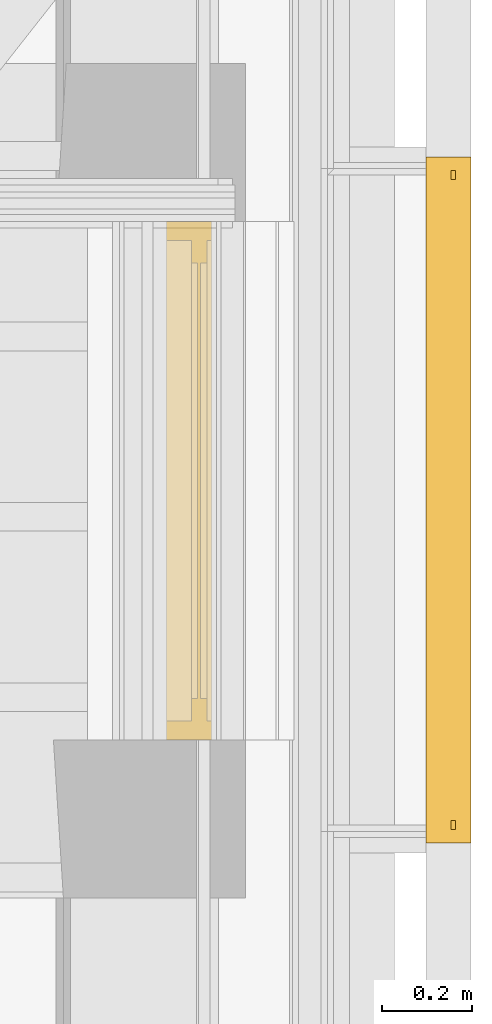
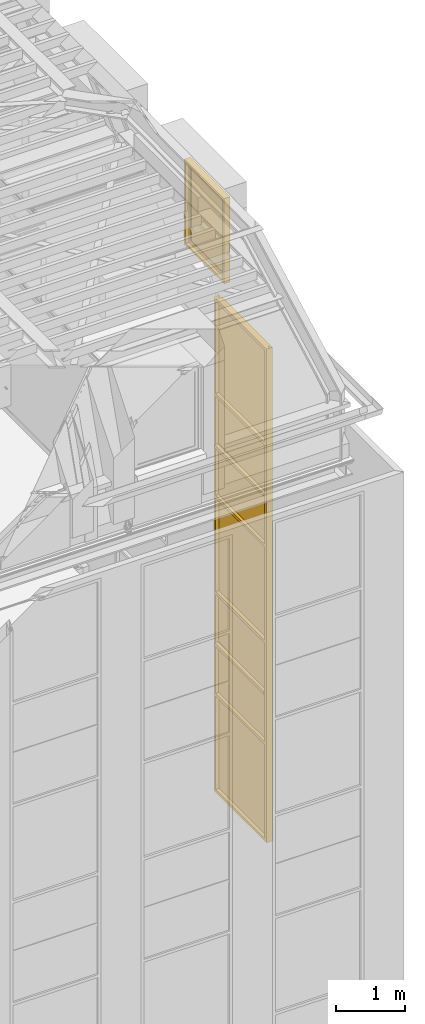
# One storey, part 145 of 183: 1 curtain wall, 1 window.
"""IFC2X3 building model written with IfcOpenShell, lengths in metres."""

from ifc_helpers import new_model, entity, si_unit, converted_unit, derived_unit, money_unit, direction, frame, origin_with_axes, place, context, subcontext, project, spatial, faceted_brep, material, type_object, element, save


model = new_model("IFC2X3")

# Units and contexts
model_context = context("Model", 3, precision=1e-05, world=origin_with_axes(), true_north=direction((0.0, 1.0)))
body_context = subcontext(model_context, "Body", "Model", "MODEL_VIEW", scale=1.0)
ifc_project = project(units=[si_unit("LENGTHUNIT", "METRE"), si_unit("AREAUNIT", "SQUARE_METRE"), si_unit("VOLUMEUNIT", "CUBIC_METRE"), si_unit("ABSORBEDDOSEUNIT", "GRAY"), si_unit("AMOUNTOFSUBSTANCEUNIT", "MOLE"), si_unit("DOSEEQUIVALENTUNIT", "SIEVERT"), si_unit("ELECTRICCAPACITANCEUNIT", "FARAD"), si_unit("ELECTRICCHARGEUNIT", "COULOMB"), si_unit("ELECTRICCONDUCTANCEUNIT", "SIEMENS"), si_unit("ELECTRICCURRENTUNIT", "AMPERE"), si_unit("ELECTRICRESISTANCEUNIT", "OHM"), si_unit("ELECTRICVOLTAGEUNIT", "VOLT"), si_unit("ENERGYUNIT", "JOULE"), si_unit("FORCEUNIT", "NEWTON"), si_unit("FREQUENCYUNIT", "HERTZ"), si_unit("ILLUMINANCEUNIT", "LUX"), si_unit("INDUCTANCEUNIT", "HENRY"), si_unit("LUMINOUSFLUXUNIT", "LUMEN"), si_unit("LUMINOUSINTENSITYUNIT", "CANDELA"), si_unit("MAGNETICFLUXDENSITYUNIT", "TESLA"), si_unit("MAGNETICFLUXUNIT", "WEBER"), si_unit("MASSUNIT", "GRAM"), converted_unit("PLANEANGLEUNIT", "degree", entity("IfcReal", 0.0174532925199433), si_unit("PLANEANGLEUNIT", "RADIAN"), dimensions=[0, 0, 0, 0, 0, 0, 0]), si_unit("POWERUNIT", "WATT"), si_unit("PRESSUREUNIT", "PASCAL"), si_unit("RADIOACTIVITYUNIT", "BECQUEREL"), si_unit("SOLIDANGLEUNIT", "STERADIAN"), si_unit("THERMODYNAMICTEMPERATUREUNIT", "KELVIN"), si_unit("TIMEUNIT", "SECOND"), derived_unit("ACCELERATIONUNIT", [(si_unit("LENGTHUNIT", "METRE"), 1), (si_unit("TIMEUNIT", "SECOND"), -2)]), derived_unit("ANGULARVELOCITYUNIT", [(converted_unit("PLANEANGLEUNIT", "degree", entity("IfcReal", 0.0174532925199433), si_unit("PLANEANGLEUNIT", "RADIAN"), dimensions=[0, 0, 0, 0, 0, 0, 0]), 1), (si_unit("TIMEUNIT", "SECOND"), -1)]), derived_unit("CURVATUREUNIT", [(converted_unit("PLANEANGLEUNIT", "degree", entity("IfcReal", 0.0174532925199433), si_unit("PLANEANGLEUNIT", "RADIAN"), dimensions=[0, 0, 0, 0, 0, 0, 0]), 1), (si_unit("LENGTHUNIT", "METRE"), -1)]), derived_unit("DYNAMICVISCOSITYUNIT", [(si_unit("PRESSUREUNIT", "PASCAL"), 1), (si_unit("TIMEUNIT", "SECOND"), 1)]), derived_unit("HEATFLUXDENSITYUNIT", [(si_unit("POWERUNIT", "WATT"), 1), (si_unit("LENGTHUNIT", "METRE"), -2)]), derived_unit("HEATINGVALUEUNIT", [(si_unit("ENERGYUNIT", "JOULE"), 1), (si_unit("MASSUNIT", "GRAM"), -1)]), derived_unit("INTEGERCOUNTRATEUNIT", [(si_unit("TIMEUNIT", "SECOND"), -1)]), derived_unit("IONCONCENTRATIONUNIT", [(si_unit("MASSUNIT", "GRAM"), 1), (si_unit("VOLUMEUNIT", "CUBIC_METRE"), -1)]), derived_unit("ISOTHERMALMOISTURECAPACITYUNIT", [(si_unit("VOLUMEUNIT", "CUBIC_METRE"), 1), (si_unit("MASSUNIT", "GRAM"), -1)]), derived_unit("KINEMATICVISCOSITYUNIT", [(si_unit("AREAUNIT", "SQUARE_METRE"), 1), (si_unit("TIMEUNIT", "SECOND"), -1)]), derived_unit("LINEARFORCEUNIT", [(si_unit("FORCEUNIT", "NEWTON"), 1), (si_unit("LENGTHUNIT", "METRE"), -1)]), derived_unit("LINEARMOMENTUNIT", [(si_unit("FORCEUNIT", "NEWTON"), 1), (si_unit("LENGTHUNIT", "METRE"), -1)]), derived_unit("LINEARSTIFFNESSUNIT", [(si_unit("FORCEUNIT", "NEWTON"), 1), (si_unit("LENGTHUNIT", "METRE"), -1)]), derived_unit("LINEARVELOCITYUNIT", [(si_unit("LENGTHUNIT", "METRE"), 1), (si_unit("TIMEUNIT", "SECOND"), -1)]), derived_unit("LUMINOUSINTENSITYDISTRIBUTIONUNIT", [(si_unit("LUMINOUSINTENSITYUNIT", "CANDELA"), 1), (si_unit("LUMINOUSFLUXUNIT", "LUMEN"), -1)]), derived_unit("MASSDENSITYUNIT", [(si_unit("MASSUNIT", "GRAM"), 1), (si_unit("VOLUMEUNIT", "CUBIC_METRE"), -1)]), derived_unit("MASSFLOWRATEUNIT", [(si_unit("MASSUNIT", "GRAM"), 1), (si_unit("TIMEUNIT", "SECOND"), -1)]), derived_unit("MASSPERLENGTHUNIT", [(si_unit("MASSUNIT", "GRAM"), 1), (si_unit("LENGTHUNIT", "METRE"), -1)]), derived_unit("MODULUSOFELASTICITYUNIT", [(si_unit("FORCEUNIT", "NEWTON"), 1), (si_unit("AREAUNIT", "SQUARE_METRE"), -1)]), derived_unit("MODULUSOFLINEARSUBGRADEREACTIONUNIT", [(si_unit("FORCEUNIT", "NEWTON"), 1), (si_unit("LENGTHUNIT", "METRE"), -2)]), derived_unit("MODULUSOFROTATIONALSUBGRADEREACTIONUNIT", [(si_unit("FORCEUNIT", "NEWTON"), 1), (si_unit("LENGTHUNIT", "METRE"), 1)]), derived_unit("MODULUSOFSUBGRADEREACTIONUNIT", [(si_unit("FORCEUNIT", "NEWTON"), 1), (si_unit("VOLUMEUNIT", "CUBIC_METRE"), -1)]), derived_unit("MOISTUREDIFFUSIVITYUNIT", [(si_unit("VOLUMEUNIT", "CUBIC_METRE"), 1), (si_unit("TIMEUNIT", "SECOND"), -1)]), derived_unit("MOLECULARWEIGHTUNIT", [(si_unit("MASSUNIT", "GRAM"), 1), (si_unit("AMOUNTOFSUBSTANCEUNIT", "MOLE"), -1)]), derived_unit("PLANARFORCEUNIT", [(si_unit("FORCEUNIT", "NEWTON"), 1), (si_unit("LENGTHUNIT", "METRE"), -2)]), derived_unit("ROTATIONALFREQUENCYUNIT", [(si_unit("TIMEUNIT", "SECOND"), -1)]), derived_unit("ROTATIONALMASSUNIT", [(si_unit("MASSUNIT", "GRAM"), 1), (si_unit("LENGTHUNIT", "METRE"), 2)]), derived_unit("ROTATIONALSTIFFNESSUNIT", [(si_unit("FORCEUNIT", "NEWTON"), 1), (si_unit("LENGTHUNIT", "METRE"), 1), (converted_unit("PLANEANGLEUNIT", "degree", entity("IfcReal", 0.0174532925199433), si_unit("PLANEANGLEUNIT", "RADIAN"), dimensions=[0, 0, 0, 0, 0, 0, 0]), -1)]), derived_unit("SECTIONAREAINTEGRALUNIT", [(si_unit("LENGTHUNIT", "METRE"), 5)]), derived_unit("SECTIONMODULUSUNIT", [(si_unit("LENGTHUNIT", "METRE"), 3)]), derived_unit("SHEARMODULUSUNIT", [(si_unit("FORCEUNIT", "NEWTON"), 1), (si_unit("AREAUNIT", "SQUARE_METRE"), -1)]), derived_unit("SOUNDPOWERUNIT", [(si_unit("ENERGYUNIT", "JOULE"), 1), (si_unit("TIMEUNIT", "SECOND"), -1)]), derived_unit("SPECIFICHEATCAPACITYUNIT", [(si_unit("FORCEUNIT", "NEWTON"), 1), (si_unit("MASSUNIT", "GRAM"), -1), (si_unit("THERMODYNAMICTEMPERATUREUNIT", "KELVIN"), -1)]), derived_unit("TEMPERATUREGRADIENTUNIT", [(si_unit("THERMODYNAMICTEMPERATUREUNIT", "KELVIN"), 1), (si_unit("LENGTHUNIT", "METRE"), -1)]), derived_unit("THERMALADMITTANCEUNIT", [(si_unit("POWERUNIT", "WATT"), 1), (si_unit("AREAUNIT", "SQUARE_METRE"), -1), (si_unit("THERMODYNAMICTEMPERATUREUNIT", "KELVIN"), -1)]), derived_unit("THERMALCONDUCTANCEUNIT", [(si_unit("POWERUNIT", "WATT"), 1), (si_unit("LENGTHUNIT", "METRE"), -1), (si_unit("THERMODYNAMICTEMPERATUREUNIT", "KELVIN"), -1)]), derived_unit("THERMALEXPANSIONCOEFFICIENTUNIT", [(si_unit("THERMODYNAMICTEMPERATUREUNIT", "KELVIN"), -1)]), derived_unit("THERMALRESISTANCEUNIT", [(si_unit("AREAUNIT", "SQUARE_METRE"), 1), (si_unit("POWERUNIT", "WATT"), -1)]), derived_unit("THERMALTRANSMITTANCEUNIT", [(si_unit("POWERUNIT", "WATT"), 1), (si_unit("AREAUNIT", "SQUARE_METRE"), -1), (si_unit("THERMODYNAMICTEMPERATUREUNIT", "KELVIN"), -1)]), derived_unit("TORQUEUNIT", [(si_unit("FORCEUNIT", "NEWTON"), 1), (si_unit("LENGTHUNIT", "METRE"), 1)]), derived_unit("VAPORPERMEABILITYUNIT", [(si_unit("MASSUNIT", "GRAM"), 1), (si_unit("TIMEUNIT", "SECOND"), -1)]), derived_unit("VOLUMETRICFLOWRATEUNIT", [(si_unit("VOLUMEUNIT", "CUBIC_METRE"), 1), (si_unit("TIMEUNIT", "SECOND"), -1)]), derived_unit("WARPINGCONSTANTUNIT", [(si_unit("LENGTHUNIT", "METRE"), 6)]), derived_unit("WARPINGMOMENTUNIT", [(si_unit("FORCEUNIT", "NEWTON"), 1), (si_unit("LENGTHUNIT", "METRE"), 2)]), money_unit("GBP")], contexts=[model_context])

# Site, building, storey
site_placement = place(None, origin_with_axes())
site = spatial("IfcSite", under=ifc_project, at=site_placement, Name="Site", CompositionType="ELEMENT")
building_placement = place(site_placement, origin_with_axes())
building = spatial("IfcBuilding", under=site, at=building_placement, Name="Building01", CompositionType="ELEMENT")
storey_placement = place(building_placement, frame((0.0, 0.0, 5.15), z_axis=(0.0, 0.0, 1.0), x_axis=(1.0, 0.0, 0.0)))
storey = spatial("IfcBuildingStorey", under=building, at=storey_placement, Name="1F", CompositionType="ELEMENT", Elevation=5.15)

# Curtain wall
ifc_material_1 = material(Name="A-CurtainWall_Frame")
curtain_wall_type = type_object("IfcCurtainWallType", Name="Pattern - Maximum Spacing", PredefinedType="NOTDEFINED")
curtain_wall_placement = place(storey_placement, frame((0.0, 0.0, -5.15), z_axis=(0.0, 0.0, 1.0), x_axis=(1.0, 0.0, 0.0)))
element("IfcCurtainWall", 1, at=curtain_wall_placement, inside=storey, type_object=curtain_wall_type, material=ifc_material_1, Name="28", ObjectType="Pattern - Maximum Spacing", context=body_context, shape_type="Brep", body=[
    faceted_brep([(26.935, 3.82718, 6.045508), (26.945, 3.82718, 6.045508), (26.945, 3.82718, 7.729632), (26.935, 3.82718, 7.729632), (26.935, 5.28718, 6.045508), (26.945, 5.28718, 6.045508), (26.935, 5.28718, 7.729632), (26.945, 5.28718, 7.729632)], [[[0, 1, 2, 3]], [[4, 5, 1, 0]], [[6, 7, 5, 4]], [[3, 2, 7, 6]], [[1, 5, 7, 2]], [[3, 6, 4, 0]]]),
    faceted_brep([(26.935, 3.82718, 6.015508), (26.945, 3.82718, 6.015508), (26.945, 3.84718, 6.015508), (26.98, 3.84718, 6.015508), (26.98, 3.79718, 6.015508), (26.88, 3.79718, 6.015508), (26.88, 3.84718, 6.015508), (26.935, 3.84718, 6.015508), (26.935, 3.84718, 7.734632), (26.935, 3.82718, 7.734632), (26.945, 3.82718, 7.734632), (26.945, 3.84718, 7.734632), (26.98, 3.84718, 7.734632), (26.98, 3.79718, 7.734632), (26.88, 3.79718, 7.734632), (26.88, 3.84718, 7.734632)], [[[0, 1, 2, 3, 4, 5, 6, 7]], [[7, 8, 9, 0]], [[0, 9, 10, 1]], [[1, 10, 11, 2]], [[2, 11, 12, 3]], [[3, 12, 13, 4]], [[4, 13, 14, 5]], [[5, 14, 15, 6]], [[6, 15, 8, 7]]]),
    faceted_brep([(26.935, 5.26718, 6.045508), (26.945, 5.26718, 6.045508), (26.945, 5.26718, 6.065508), (26.98, 5.26718, 6.065508), (26.98, 5.26718, 6.015508), (26.88, 5.26718, 6.015508), (26.88, 5.26718, 6.065508), (26.935, 5.26718, 6.065508), (26.935, 3.84718, 6.065508), (26.935, 3.84718, 6.045508), (26.945, 3.84718, 6.045508), (26.945, 3.84718, 6.065508), (26.98, 3.84718, 6.065508), (26.98, 3.84718, 6.015508), (26.88, 3.84718, 6.015508), (26.88, 3.84718, 6.065508)], [[[0, 1, 2, 3, 4, 5, 6, 7]], [[7, 8, 9, 0]], [[0, 9, 10, 1]], [[1, 10, 11, 2]], [[2, 11, 12, 3]], [[3, 12, 13, 4]], [[4, 13, 14, 5]], [[5, 14, 15, 6]], [[6, 15, 8, 7]], [[8, 15, 14, 13, 12, 11, 10, 9]]]),
    faceted_brep([(26.88, 5.26718, 6.015508), (26.88, 5.26718, 7.734632), (26.88, 5.31718, 7.734632), (26.88, 5.31718, 6.015508), (26.935, 5.26718, 6.015508), (26.935, 5.26718, 7.734632), (26.935, 5.28718, 6.015508), (26.935, 5.28718, 7.734632), (26.945, 5.28718, 6.015508), (26.945, 5.28718, 7.734632), (26.945, 5.26718, 6.015508), (26.945, 5.26718, 7.734632), (26.98, 5.26718, 6.015508), (26.98, 5.26718, 7.734632), (26.98, 5.31718, 6.015508), (26.98, 5.31718, 7.734632)], [[[0, 1, 2, 3]], [[4, 5, 1, 0]], [[6, 7, 5, 4]], [[8, 9, 7, 6]], [[10, 11, 9, 8]], [[12, 13, 11, 10]], [[14, 15, 13, 12]], [[3, 2, 15, 14]], [[14, 12, 10, 8, 6, 4, 0, 3]]]),
    faceted_brep([(26.935, 3.84718, 7.729632), (26.945, 3.84718, 7.729632), (26.945, 3.84718, 7.709632), (26.98, 3.84718, 7.709632), (26.98, 3.84718, 7.759632), (26.945, 3.84718, 7.759632), (26.945, 3.84718, 7.739632), (26.935, 3.84718, 7.739632), (26.935, 3.84718, 7.759632), (26.88, 3.84718, 7.759632), (26.88, 3.84718, 7.709632), (26.935, 3.84718, 7.709632), (26.935, 5.26718, 7.709632), (26.935, 5.26718, 7.729632), (26.945, 5.26718, 7.729632), (26.945, 5.26718, 7.709632), (26.98, 5.26718, 7.709632), (26.98, 5.26718, 7.759632), (26.945, 5.26718, 7.759632), (26.935, 5.26718, 7.739632), (26.935, 5.26718, 7.759632), (26.945, 5.26718, 7.739632), (26.88, 5.26718, 7.709632), (26.88, 5.26718, 7.759632)], [[[0, 1, 2, 3, 4, 5, 6, 7, 8, 9, 10, 11]], [[11, 12, 13, 0]], [[0, 13, 14, 1]], [[1, 14, 15, 2]], [[2, 15, 16, 3]], [[3, 16, 17, 4]], [[4, 17, 18, 5]], [[7, 19, 20, 8]], [[6, 21, 19, 7]], [[5, 18, 21, 6]], [[10, 22, 12, 11]], [[9, 23, 22, 10]], [[8, 20, 23, 9]], [[20, 19, 21, 18, 17, 16, 15, 14, 13, 12, 22, 23]]]),
    faceted_brep([(26.93, 3.82718, 7.739632), (26.95, 3.82718, 7.739632), (26.95, 3.82718, 8.626522), (26.93, 3.82718, 8.626522), (26.93, 5.28718, 7.739632), (26.95, 5.28718, 7.739632), (26.93, 5.28718, 8.626522), (26.95, 5.28718, 8.626522)], [[[0, 1, 2, 3]], [[4, 5, 1, 0]], [[6, 7, 5, 4]], [[3, 2, 7, 6]], [[1, 5, 7, 2]], [[3, 6, 4, 0]]]),
    faceted_brep([(26.88, 3.84718, 8.631522), (26.88, 3.84718, 7.734632), (26.88, 3.79718, 7.734632), (26.88, 3.79718, 8.631522), (26.935, 3.84718, 8.631522), (26.935, 3.84718, 7.734632), (26.935, 3.82718, 8.631522), (26.935, 3.82718, 7.734632), (26.945, 3.82718, 8.631522), (26.945, 3.82718, 7.734632), (26.945, 3.84718, 8.631522), (26.945, 3.84718, 7.734632), (26.98, 3.84718, 8.631522), (26.98, 3.84718, 7.734632), (26.98, 3.79718, 8.631522), (26.98, 3.79718, 7.734632)], [[[0, 1, 2, 3]], [[4, 5, 1, 0]], [[6, 7, 5, 4]], [[8, 9, 7, 6]], [[10, 11, 9, 8]], [[12, 13, 11, 10]], [[14, 15, 13, 12]], [[3, 2, 15, 14]]]),
    faceted_brep([(26.88, 5.26718, 7.734632), (26.88, 5.26718, 8.631522), (26.88, 5.31718, 8.631522), (26.88, 5.31718, 7.734632), (26.935, 5.26718, 7.734632), (26.935, 5.26718, 8.631522), (26.935, 5.28718, 7.734632), (26.935, 5.28718, 8.631522), (26.945, 5.28718, 7.734632), (26.945, 5.28718, 8.631522), (26.945, 5.26718, 7.734632), (26.945, 5.26718, 8.631522), (26.98, 5.26718, 7.734632), (26.98, 5.26718, 8.631522), (26.98, 5.31718, 7.734632), (26.98, 5.31718, 8.631522)], [[[0, 1, 2, 3]], [[4, 5, 1, 0]], [[6, 7, 5, 4]], [[8, 9, 7, 6]], [[10, 11, 9, 8]], [[12, 13, 11, 10]], [[14, 15, 13, 12]], [[3, 2, 15, 14]]]),
    faceted_brep([(26.9175, 3.84718, 8.626522), (26.9275, 3.84718, 8.626522), (26.9275, 3.84718, 8.606522), (26.9625, 3.84718, 8.606522), (26.9625, 3.84718, 8.656522), (26.9275, 3.84718, 8.656522), (26.9275, 3.84718, 8.636522), (26.9175, 3.84718, 8.636522), (26.9175, 3.84718, 8.656522), (26.8625, 3.84718, 8.656522), (26.8625, 3.84718, 8.606522), (26.9175, 3.84718, 8.606522), (26.9175, 5.26718, 8.606522), (26.9175, 5.26718, 8.626522), (26.9275, 5.26718, 8.626522), (26.9275, 5.26718, 8.606522), (26.9625, 5.26718, 8.606522), (26.9625, 5.26718, 8.656522), (26.9275, 5.26718, 8.656522), (26.9175, 5.26718, 8.636522), (26.9175, 5.26718, 8.656522), (26.9275, 5.26718, 8.636522), (26.8625, 5.26718, 8.606522), (26.8625, 5.26718, 8.656522)], [[[0, 1, 2, 3, 4, 5, 6, 7, 8, 9, 10, 11]], [[11, 12, 13, 0]], [[0, 13, 14, 1]], [[1, 14, 15, 2]], [[2, 15, 16, 3]], [[3, 16, 17, 4]], [[4, 17, 18, 5]], [[7, 19, 20, 8]], [[6, 21, 19, 7]], [[5, 18, 21, 6]], [[10, 22, 12, 11]], [[9, 23, 22, 10]], [[8, 20, 23, 9]], [[20, 19, 21, 18, 17, 16, 15, 14, 13, 12, 22, 23]]]),
    faceted_brep([(26.93, 3.82718, 8.636522), (26.95, 3.82718, 8.636522), (26.95, 3.82718, 9.523411), (26.93, 3.82718, 9.523411), (26.93, 5.28718, 8.636522), (26.95, 5.28718, 8.636522), (26.93, 5.28718, 9.523411), (26.95, 5.28718, 9.523411)], [[[0, 1, 2, 3]], [[4, 5, 1, 0]], [[6, 7, 5, 4]], [[3, 2, 7, 6]], [[1, 5, 7, 2]], [[3, 6, 4, 0]]]),
    faceted_brep([(26.88, 3.84718, 9.528411), (26.88, 3.84718, 8.631522), (26.88, 3.79718, 8.631522), (26.88, 3.79718, 9.528411), (26.935, 3.84718, 9.528411), (26.935, 3.84718, 8.631522), (26.935, 3.82718, 9.528411), (26.935, 3.82718, 8.631522), (26.945, 3.82718, 9.528411), (26.945, 3.82718, 8.631522), (26.945, 3.84718, 9.528411), (26.945, 3.84718, 8.631522), (26.98, 3.84718, 9.528411), (26.98, 3.84718, 8.631522), (26.98, 3.79718, 9.528411), (26.98, 3.79718, 8.631522)], [[[0, 1, 2, 3]], [[4, 5, 1, 0]], [[6, 7, 5, 4]], [[8, 9, 7, 6]], [[10, 11, 9, 8]], [[12, 13, 11, 10]], [[14, 15, 13, 12]], [[3, 2, 15, 14]]]),
    faceted_brep([(26.88, 5.26718, 8.631522), (26.88, 5.26718, 9.528411), (26.88, 5.31718, 9.528411), (26.88, 5.31718, 8.631522), (26.935, 5.26718, 8.631522), (26.935, 5.26718, 9.528411), (26.935, 5.28718, 8.631522), (26.935, 5.28718, 9.528411), (26.945, 5.28718, 8.631522), (26.945, 5.28718, 9.528411), (26.945, 5.26718, 8.631522), (26.945, 5.26718, 9.528411), (26.98, 5.26718, 8.631522), (26.98, 5.26718, 9.528411), (26.98, 5.31718, 8.631522), (26.98, 5.31718, 9.528411)], [[[0, 1, 2, 3]], [[4, 5, 1, 0]], [[6, 7, 5, 4]], [[8, 9, 7, 6]], [[10, 11, 9, 8]], [[12, 13, 11, 10]], [[14, 15, 13, 12]], [[3, 2, 15, 14]]]),
    faceted_brep([(26.935, 3.84718, 9.523411), (26.945, 3.84718, 9.523411), (26.945, 3.84718, 9.503411), (26.98, 3.84718, 9.503411), (26.98, 3.84718, 9.553411), (26.945, 3.84718, 9.553411), (26.945, 3.84718, 9.533411), (26.935, 3.84718, 9.533411), (26.935, 3.84718, 9.553411), (26.88, 3.84718, 9.553411), (26.88, 3.84718, 9.503411), (26.935, 3.84718, 9.503411), (26.935, 5.26718, 9.503411), (26.935, 5.26718, 9.523411), (26.945, 5.26718, 9.523411), (26.945, 5.26718, 9.503411), (26.98, 5.26718, 9.503411), (26.98, 5.26718, 9.553411), (26.945, 5.26718, 9.553411), (26.935, 5.26718, 9.533411), (26.935, 5.26718, 9.553411), (26.945, 5.26718, 9.533411), (26.88, 5.26718, 9.503411), (26.88, 5.26718, 9.553411)], [[[0, 1, 2, 3, 4, 5, 6, 7, 8, 9, 10, 11]], [[11, 12, 13, 0]], [[0, 13, 14, 1]], [[1, 14, 15, 2]], [[2, 15, 16, 3]], [[3, 16, 17, 4]], [[4, 17, 18, 5]], [[7, 19, 20, 8]], [[6, 21, 19, 7]], [[5, 18, 21, 6]], [[10, 22, 12, 11]], [[9, 23, 22, 10]], [[8, 20, 23, 9]], [[20, 19, 21, 18, 17, 16, 15, 14, 13, 12, 22, 23]]]),
    faceted_brep([(26.935, 3.82718, 9.533411), (26.945, 3.82718, 9.533411), (26.945, 3.82718, 11.217536), (26.935, 3.82718, 11.217536), (26.935, 5.28718, 9.533411), (26.945, 5.28718, 9.533411), (26.935, 5.28718, 11.217536), (26.945, 5.28718, 11.217536)], [[[0, 1, 2, 3]], [[4, 5, 1, 0]], [[6, 7, 5, 4]], [[3, 2, 7, 6]], [[1, 5, 7, 2]], [[3, 6, 4, 0]]]),
    faceted_brep([(26.88, 3.84718, 11.222536), (26.88, 3.84718, 9.528411), (26.88, 3.79718, 9.528411), (26.88, 3.79718, 11.222536), (26.935, 3.84718, 11.222536), (26.935, 3.84718, 9.528411), (26.935, 3.82718, 11.222536), (26.935, 3.82718, 9.528411), (26.945, 3.82718, 11.222536), (26.945, 3.82718, 9.528411), (26.945, 3.84718, 11.222536), (26.945, 3.84718, 9.528411), (26.98, 3.84718, 11.222536), (26.98, 3.84718, 9.528411), (26.98, 3.79718, 11.222536), (26.98, 3.79718, 9.528411)], [[[0, 1, 2, 3]], [[4, 5, 1, 0]], [[6, 7, 5, 4]], [[8, 9, 7, 6]], [[10, 11, 9, 8]], [[12, 13, 11, 10]], [[14, 15, 13, 12]], [[3, 2, 15, 14]]]),
    faceted_brep([(26.88, 5.26718, 9.528411), (26.88, 5.26718, 11.222536), (26.88, 5.31718, 11.222536), (26.88, 5.31718, 9.528411), (26.935, 5.26718, 9.528411), (26.935, 5.26718, 11.222536), (26.935, 5.28718, 9.528411), (26.935, 5.28718, 11.222536), (26.945, 5.28718, 9.528411), (26.945, 5.28718, 11.222536), (26.945, 5.26718, 9.528411), (26.945, 5.26718, 11.222536), (26.98, 5.26718, 9.528411), (26.98, 5.26718, 11.222536), (26.98, 5.31718, 9.528411), (26.98, 5.31718, 11.222536)], [[[0, 1, 2, 3]], [[4, 5, 1, 0]], [[6, 7, 5, 4]], [[8, 9, 7, 6]], [[10, 11, 9, 8]], [[12, 13, 11, 10]], [[14, 15, 13, 12]], [[3, 2, 15, 14]]]),
    faceted_brep([(26.935, 3.84718, 11.217536), (26.945, 3.84718, 11.217536), (26.945, 3.84718, 11.197536), (26.98, 3.84718, 11.197536), (26.98, 3.84718, 11.247536), (26.945, 3.84718, 11.247536), (26.945, 3.84718, 11.227536), (26.935, 3.84718, 11.227536), (26.935, 3.84718, 11.247536), (26.88, 3.84718, 11.247536), (26.88, 3.84718, 11.197536), (26.935, 3.84718, 11.197536), (26.935, 5.26718, 11.197536), (26.935, 5.26718, 11.217536), (26.945, 5.26718, 11.217536), (26.945, 5.26718, 11.197536), (26.98, 5.26718, 11.197536), (26.98, 5.26718, 11.247536), (26.945, 5.26718, 11.247536), (26.935, 5.26718, 11.227536), (26.935, 5.26718, 11.247536), (26.945, 5.26718, 11.227536), (26.88, 5.26718, 11.197536), (26.88, 5.26718, 11.247536)], [[[0, 1, 2, 3, 4, 5, 6, 7, 8, 9, 10, 11]], [[11, 12, 13, 0]], [[0, 13, 14, 1]], [[1, 14, 15, 2]], [[2, 15, 16, 3]], [[3, 16, 17, 4]], [[4, 17, 18, 5]], [[7, 19, 20, 8]], [[6, 21, 19, 7]], [[5, 18, 21, 6]], [[10, 22, 12, 11]], [[9, 23, 22, 10]], [[8, 20, 23, 9]], [[20, 19, 21, 18, 17, 16, 15, 14, 13, 12, 22, 23]]]),
    faceted_brep([(26.93, 3.82718, 11.227536), (26.95, 3.82718, 11.227536), (26.95, 3.82718, 12.114425), (26.93, 3.82718, 12.114425), (26.93, 5.28718, 11.227536), (26.95, 5.28718, 11.227536), (26.93, 5.28718, 12.114425), (26.95, 5.28718, 12.114425)], [[[0, 1, 2, 3]], [[4, 5, 1, 0]], [[6, 7, 5, 4]], [[3, 2, 7, 6]], [[1, 5, 7, 2]], [[3, 6, 4, 0]]]),
    faceted_brep([(26.88, 3.84718, 12.119425), (26.88, 3.84718, 11.222536), (26.88, 3.79718, 11.222536), (26.88, 3.79718, 12.119425), (26.935, 3.84718, 12.119425), (26.935, 3.84718, 11.222536), (26.935, 3.82718, 12.119425), (26.935, 3.82718, 11.222536), (26.945, 3.82718, 12.119425), (26.945, 3.82718, 11.222536), (26.945, 3.84718, 12.119425), (26.945, 3.84718, 11.222536), (26.98, 3.84718, 12.119425), (26.98, 3.84718, 11.222536), (26.98, 3.79718, 12.119425), (26.98, 3.79718, 11.222536)], [[[0, 1, 2, 3]], [[4, 5, 1, 0]], [[6, 7, 5, 4]], [[8, 9, 7, 6]], [[10, 11, 9, 8]], [[12, 13, 11, 10]], [[14, 15, 13, 12]], [[3, 2, 15, 14]]]),
    faceted_brep([(26.88, 5.26718, 11.222536), (26.88, 5.26718, 12.119425), (26.88, 5.31718, 12.119425), (26.88, 5.31718, 11.222536), (26.935, 5.26718, 11.222536), (26.935, 5.26718, 12.119425), (26.935, 5.28718, 11.222536), (26.935, 5.28718, 12.119425), (26.945, 5.28718, 11.222536), (26.945, 5.28718, 12.119425), (26.945, 5.26718, 11.222536), (26.945, 5.26718, 12.119425), (26.98, 5.26718, 11.222536), (26.98, 5.26718, 12.119425), (26.98, 5.31718, 11.222536), (26.98, 5.31718, 12.119425)], [[[0, 1, 2, 3]], [[4, 5, 1, 0]], [[6, 7, 5, 4]], [[8, 9, 7, 6]], [[10, 11, 9, 8]], [[12, 13, 11, 10]], [[14, 15, 13, 12]], [[3, 2, 15, 14]]]),
    faceted_brep([(26.9175, 3.84718, 12.114425), (26.9275, 3.84718, 12.114425), (26.9275, 3.84718, 12.094425), (26.9625, 3.84718, 12.094425), (26.9625, 3.84718, 12.144425), (26.9275, 3.84718, 12.144425), (26.9275, 3.84718, 12.124425), (26.9175, 3.84718, 12.124425), (26.9175, 3.84718, 12.144425), (26.8625, 3.84718, 12.144425), (26.8625, 3.84718, 12.094425), (26.9175, 3.84718, 12.094425), (26.9175, 5.26718, 12.094425), (26.9175, 5.26718, 12.114425), (26.9275, 5.26718, 12.114425), (26.9275, 5.26718, 12.094425), (26.9625, 5.26718, 12.094425), (26.9625, 5.26718, 12.144425), (26.9275, 5.26718, 12.144425), (26.9175, 5.26718, 12.124425), (26.9175, 5.26718, 12.144425), (26.9275, 5.26718, 12.124425), (26.8625, 5.26718, 12.094425), (26.8625, 5.26718, 12.144425)], [[[0, 1, 2, 3, 4, 5, 6, 7, 8, 9, 10, 11]], [[11, 12, 13, 0]], [[0, 13, 14, 1]], [[1, 14, 15, 2]], [[2, 15, 16, 3]], [[3, 16, 17, 4]], [[4, 17, 18, 5]], [[7, 19, 20, 8]], [[6, 21, 19, 7]], [[5, 18, 21, 6]], [[10, 22, 12, 11]], [[9, 23, 22, 10]], [[8, 20, 23, 9]], [[20, 19, 21, 18, 17, 16, 15, 14, 13, 12, 22, 23]]]),
    faceted_brep([(26.935, 5.28718, 14.685508), (26.945, 5.28718, 14.685508), (26.945, 5.28718, 13.021314), (26.935, 5.28718, 13.021314), (26.935, 3.82718, 14.685508), (26.945, 3.82718, 14.685508), (26.935, 3.82718, 13.021314), (26.945, 3.82718, 13.021314)], [[[0, 1, 2, 3]], [[4, 5, 1, 0]], [[6, 7, 5, 4]], [[3, 2, 7, 6]], [[1, 5, 7, 2]], [[3, 6, 4, 0]]]),
    faceted_brep([(26.88, 5.26718, 14.715508), (26.935, 5.26718, 14.715508), (26.935, 5.28718, 14.715508), (26.945, 5.28718, 14.715508), (26.945, 5.26718, 14.715508), (26.98, 5.26718, 14.715508), (26.98, 5.31718, 14.715508), (26.88, 5.31718, 14.715508), (26.88, 5.31718, 13.016314), (26.88, 5.26718, 13.016314), (26.935, 5.26718, 13.016314), (26.935, 5.28718, 13.016314), (26.945, 5.28718, 13.016314), (26.945, 5.26718, 13.016314), (26.98, 5.26718, 13.016314), (26.98, 5.31718, 13.016314)], [[[0, 1, 2, 3, 4, 5, 6, 7]], [[7, 8, 9, 0]], [[0, 9, 10, 1]], [[1, 10, 11, 2]], [[2, 11, 12, 3]], [[3, 12, 13, 4]], [[4, 13, 14, 5]], [[5, 14, 15, 6]], [[6, 15, 8, 7]]]),
    faceted_brep([(26.88, 3.84718, 14.665508), (26.935, 3.84718, 14.665508), (26.935, 3.84718, 14.685508), (26.945, 3.84718, 14.685508), (26.945, 3.84718, 14.665508), (26.98, 3.84718, 14.665508), (26.98, 3.84718, 14.715508), (26.88, 3.84718, 14.715508), (26.88, 5.26718, 14.715508), (26.88, 5.26718, 14.665508), (26.935, 5.26718, 14.665508), (26.935, 5.26718, 14.685508), (26.945, 5.26718, 14.685508), (26.945, 5.26718, 14.665508), (26.98, 5.26718, 14.665508), (26.98, 5.26718, 14.715508)], [[[0, 1, 2, 3, 4, 5, 6, 7]], [[7, 8, 9, 0]], [[0, 9, 10, 1]], [[1, 10, 11, 2]], [[2, 11, 12, 3]], [[3, 12, 13, 4]], [[4, 13, 14, 5]], [[5, 14, 15, 6]], [[6, 15, 8, 7]], [[8, 15, 14, 13, 12, 11, 10, 9]]]),
    faceted_brep([(26.935, 3.82718, 14.715508), (26.935, 3.82718, 13.016314), (26.935, 3.84718, 13.016314), (26.935, 3.84718, 14.715508), (26.945, 3.82718, 14.715508), (26.945, 3.82718, 13.016314), (26.945, 3.84718, 14.715508), (26.945, 3.84718, 13.016314), (26.98, 3.84718, 14.715508), (26.98, 3.84718, 13.016314), (26.98, 3.79718, 14.715508), (26.98, 3.79718, 13.016314), (26.88, 3.79718, 14.715508), (26.88, 3.79718, 13.016314), (26.88, 3.84718, 14.715508), (26.88, 3.84718, 13.016314)], [[[0, 1, 2, 3]], [[4, 5, 1, 0]], [[6, 7, 5, 4]], [[8, 9, 7, 6]], [[10, 11, 9, 8]], [[12, 13, 11, 10]], [[14, 15, 13, 12]], [[3, 2, 15, 14]], [[14, 12, 10, 8, 6, 4, 0, 3]]]),
    faceted_brep([(26.945, 5.26718, 13.011314), (26.935, 5.26718, 13.011314), (26.935, 5.26718, 12.991314), (26.88, 5.26718, 12.991314), (26.88, 5.26718, 13.041314), (26.935, 5.26718, 13.041314), (26.935, 5.26718, 13.021314), (26.945, 5.26718, 13.021314), (26.945, 5.26718, 13.041314), (26.98, 5.26718, 13.041314), (26.98, 5.26718, 12.991314), (26.945, 5.26718, 12.991314), (26.945, 3.84718, 12.991314), (26.945, 3.84718, 13.011314), (26.935, 3.84718, 13.011314), (26.935, 3.84718, 12.991314), (26.88, 3.84718, 12.991314), (26.88, 3.84718, 13.041314), (26.935, 3.84718, 13.041314), (26.945, 3.84718, 13.021314), (26.945, 3.84718, 13.041314), (26.935, 3.84718, 13.021314), (26.98, 3.84718, 12.991314), (26.98, 3.84718, 13.041314)], [[[0, 1, 2, 3, 4, 5, 6, 7, 8, 9, 10, 11]], [[11, 12, 13, 0]], [[0, 13, 14, 1]], [[1, 14, 15, 2]], [[2, 15, 16, 3]], [[3, 16, 17, 4]], [[4, 17, 18, 5]], [[7, 19, 20, 8]], [[6, 21, 19, 7]], [[5, 18, 21, 6]], [[10, 22, 12, 11]], [[9, 23, 22, 10]], [[8, 20, 23, 9]], [[20, 19, 21, 18, 17, 16, 15, 14, 13, 12, 22, 23]]]),
    faceted_brep([(26.93, 3.82718, 12.124425), (26.95, 3.82718, 12.124425), (26.95, 3.82718, 13.011314), (26.93, 3.82718, 13.011314), (26.93, 5.28718, 12.124425), (26.95, 5.28718, 12.124425), (26.93, 5.28718, 13.011314), (26.95, 5.28718, 13.011314)], [[[0, 1, 2, 3]], [[4, 5, 1, 0]], [[6, 7, 5, 4]], [[3, 2, 7, 6]], [[1, 5, 7, 2]], [[3, 6, 4, 0]]]),
    faceted_brep([(26.88, 3.84718, 13.016314), (26.88, 3.84718, 12.119425), (26.88, 3.79718, 12.119425), (26.88, 3.79718, 13.016314), (26.935, 3.84718, 13.016314), (26.935, 3.84718, 12.119425), (26.935, 3.82718, 13.016314), (26.935, 3.82718, 12.119425), (26.945, 3.82718, 13.016314), (26.945, 3.82718, 12.119425), (26.945, 3.84718, 13.016314), (26.945, 3.84718, 12.119425), (26.98, 3.84718, 13.016314), (26.98, 3.84718, 12.119425), (26.98, 3.79718, 13.016314), (26.98, 3.79718, 12.119425)], [[[0, 1, 2, 3]], [[4, 5, 1, 0]], [[6, 7, 5, 4]], [[8, 9, 7, 6]], [[10, 11, 9, 8]], [[12, 13, 11, 10]], [[14, 15, 13, 12]], [[3, 2, 15, 14]]]),
    faceted_brep([(26.88, 5.26718, 12.119425), (26.88, 5.26718, 13.016314), (26.88, 5.31718, 13.016314), (26.88, 5.31718, 12.119425), (26.935, 5.26718, 12.119425), (26.935, 5.26718, 13.016314), (26.935, 5.28718, 12.119425), (26.935, 5.28718, 13.016314), (26.945, 5.28718, 12.119425), (26.945, 5.28718, 13.016314), (26.945, 5.26718, 12.119425), (26.945, 5.26718, 13.016314), (26.98, 5.26718, 12.119425), (26.98, 5.26718, 13.016314), (26.98, 5.31718, 12.119425), (26.98, 5.31718, 13.016314)], [[[0, 1, 2, 3]], [[4, 5, 1, 0]], [[6, 7, 5, 4]], [[8, 9, 7, 6]], [[10, 11, 9, 8]], [[12, 13, 11, 10]], [[14, 15, 13, 12]], [[3, 2, 15, 14]]]),
])

# Space
space_placement = place(storey_placement, frame((17.73844, 7.349915, 9.81), z_axis=(0.0, 0.0, 1.0), x_axis=(0.0, -1.0, 0.0)))
space = spatial("IfcSpace", under=storey, at=space_placement, Name="24", CompositionType="ELEMENT", InteriorOrExteriorSpace="NOTDEFINED")

# Window
ifc_material_2 = material(Name="A_BSUK_Windows")
window_style = type_object("IfcWindowStyle", Name="A-Awning", ConstructionType="NOTDEFINED", OperationType="USERDEFINED", ParameterTakesPrecedence=False, Sizeable=False)
window_placement = place(storey_placement, frame((26.430061, 5.174915, 10.78), z_axis=(0.0, 0.0, 1.0), x_axis=(0.0, 1.0, 0.0)))
element("IfcWindow", 2, at=window_placement, inside=space, type_object=window_style, material=ifc_material_2, Name="4.12", ObjectType="A-Awning", OverallHeight=1.50000000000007, OverallWidth=1.15000000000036, context=body_context, shape_type="Brep", body=[
    faceted_brep([(-1.108, 0.0254, 0.042), (-0.042, 0.0254, 0.042), (-0.042, 0.1254, 0.042), (-1.108, 0.1254, 0.042), (-1.108, 0.0254, 1.458), (-1.108, 0.1254, 1.458), (-0.042, 0.0254, 1.458), (-0.042, 0.1254, 1.458), (0.0, 0.0254, 0.0), (0.0, 0.0254, 1.5), (-1.15, 0.0254, 1.5), (-1.15, 0.0254, 0.0), (0.0, 0.1254, 1.5), (-1.15, 0.1254, 1.5), (-1.15, 0.1254, 0.0), (0.0, 0.1254, 0.0)], [[[0, 1, 2, 3]], [[4, 0, 3, 5]], [[6, 4, 5, 7]], [[8, 9, 10, 11], [4, 6, 1, 0]], [[1, 6, 7, 2]], [[12, 13, 10, 9]], [[14, 15, 8, 11]], [[13, 14, 11, 10]], [[13, 12, 15, 14], [2, 7, 5, 3]], [[15, 12, 9, 8]]]),
    faceted_brep([(-1.0572, 0.0354, 0.0928), (-0.0928, 0.0354, 0.0928), (-0.0928, 0.0704, 0.0928), (-1.0572, 0.0704, 0.0928), (-1.0572, 0.0354, 1.4072), (-1.0572, 0.0704, 1.4072), (-0.0928, 0.0354, 1.4072), (-0.0928, 0.0704, 1.4072), (-1.108, 0.0704, 1.458), (-0.042, 0.0704, 1.458), (-0.042, 0.0704, 0.042), (-1.108, 0.0704, 0.042), (-1.108, 0.0354, 1.458), (-0.042, 0.0354, 1.458), (-0.042, 0.0354, 0.042), (-1.108, 0.0354, 0.042)], [[[0, 1, 2, 3]], [[4, 0, 3, 5]], [[6, 4, 5, 7]], [[8, 9, 10, 11], [2, 7, 5, 3]], [[9, 8, 12, 13]], [[10, 9, 13, 14]], [[11, 10, 14, 15]], [[8, 11, 15, 12]], [[14, 13, 12, 15], [4, 6, 1, 0]], [[1, 6, 7, 2]]]),
    faceted_brep([(-0.0928, 0.049725, 0.0928), (-0.0928, 0.056075, 0.0928), (-0.0928, 0.056075, 1.4072), (-0.0928, 0.049725, 1.4072), (-1.0572, 0.049725, 1.4072), (-1.0572, 0.056075, 1.4072), (-1.0572, 0.056075, 0.0928), (-1.0572, 0.049725, 0.0928)], [[[0, 1, 2, 3]], [[4, 5, 6, 7]], [[3, 2, 5, 4]], [[3, 4, 7, 0]], [[7, 6, 1, 0]], [[1, 6, 5, 2]]]),
])

save(model, "model.ifc")
